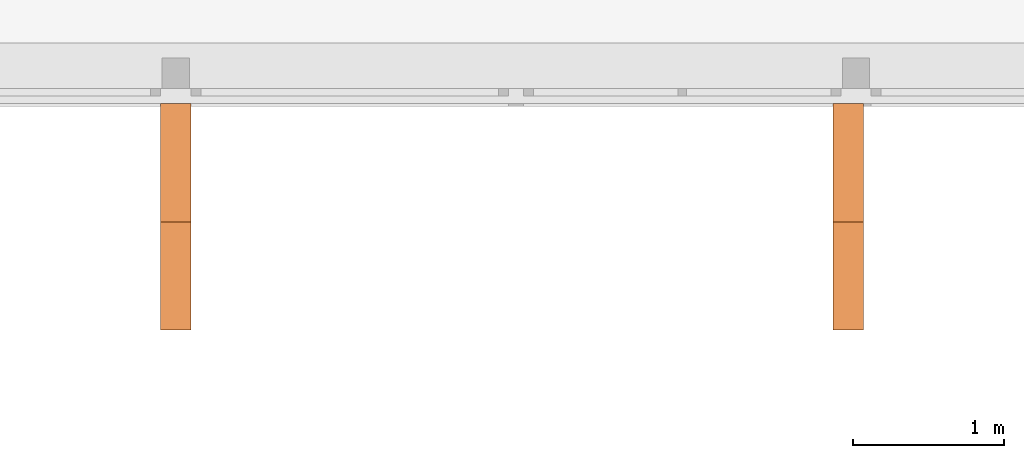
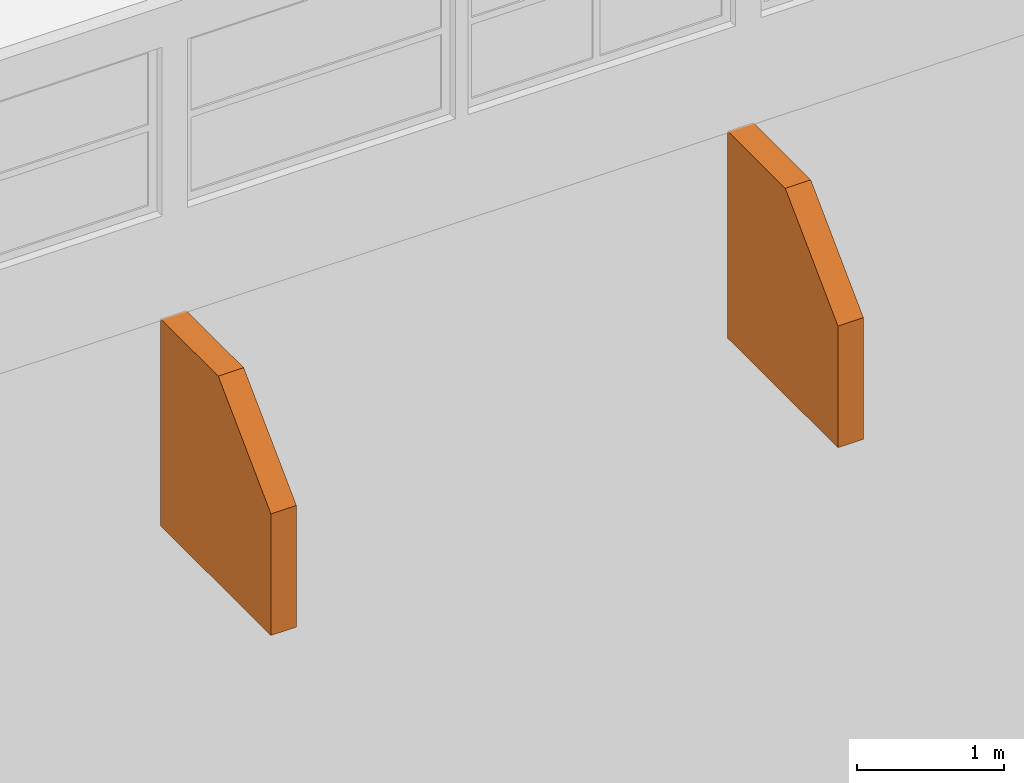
# One storey, part 48 of 48: 2 proxies.
"""IFC2X3 building model written with IfcOpenShell, lengths in millimetres."""

from ifc_helpers import new_model, entity, si_unit, converted_unit, derived_unit, money_unit, direction, frame, origin_with_axes, place, context, subcontext, project, spatial, faceted_brep, source, transform, mapped, material, type_object, element, save


model = new_model("IFC2X3")

# Units and contexts
model_context = context("Model", 3, precision=0.01, world=origin_with_axes(), true_north=direction((0.0, 1.0)))
body_context = subcontext(model_context, "Body", "Model", "MODEL_VIEW")
ifc_project = project(units=[si_unit("LENGTHUNIT", "METRE", prefix="MILLI"), si_unit("AREAUNIT", "SQUARE_METRE"), si_unit("VOLUMEUNIT", "CUBIC_METRE"), converted_unit("PLANEANGLEUNIT", "DEGREE", entity("IfcPlaneAngleMeasure", 0.0174532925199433), si_unit("PLANEANGLEUNIT", "RADIAN"), dimensions=[0, 0, 0, 0, 0, 0, 0]), money_unit("USD"), converted_unit("TIMEUNIT", "Year", entity("IfcTimeMeasure", 31557600.0), si_unit("TIMEUNIT", "SECOND"), dimensions=[0, 0, 1, 0, 0, 0, 0]), si_unit("MASSUNIT", "GRAM", prefix="KILO"), si_unit("THERMODYNAMICTEMPERATUREUNIT", "DEGREE_CELSIUS"), si_unit("LUMINOUSINTENSITYUNIT", "LUMEN"), si_unit("ENERGYUNIT", "JOULE", prefix="MEGA"), derived_unit("THERMALCONDUCTANCEUNIT", [(si_unit("POWERUNIT", "WATT"), 1), (si_unit("LENGTHUNIT", "METRE"), -1), (si_unit("THERMODYNAMICTEMPERATUREUNIT", "KELVIN"), -1)]), derived_unit("SPECIFICHEATCAPACITYUNIT", [(si_unit("ENERGYUNIT", "JOULE"), 1), (si_unit("MASSUNIT", "GRAM", prefix="KILO"), -1), (si_unit("THERMODYNAMICTEMPERATUREUNIT", "KELVIN"), -1)]), derived_unit("MASSDENSITYUNIT", [(si_unit("MASSUNIT", "GRAM", prefix="KILO"), 1), (si_unit("VOLUMEUNIT", "CUBIC_METRE"), -1)])], contexts=[model_context])

# Site, building, storey
site_placement = place(None, origin_with_axes())
site = spatial("IfcSite", under=ifc_project, at=site_placement, Name="Site", CompositionType="ELEMENT")
building_placement = place(site_placement, origin_with_axes())
building = spatial("IfcBuilding", under=site, at=building_placement, Name="Building", CompositionType="ELEMENT")
storey_placement = place(building_placement, frame((0.0, 0.0, 3300.0), z_axis=(0.0, 0.0, 1.0), x_axis=(1.0, 0.0, 0.0)))
storey = spatial("IfcBuildingStorey", under=building, at=storey_placement, Name="1 ETG", CompositionType="ELEMENT", Elevation=3300.0)

# Proxies
ifc_material = material(Name="GENERIC - PREFABRICATED")
building_element_proxy_type = type_object("IfcBuildingElementProxyType", Name="GENERIC - PREFABRICATED", PredefinedType="NOTDEFINED")
shared_shape = source(origin_with_axes(), body_context, "Body", "Brep", [
    faceted_brep([(0.0, -1500.0, -502.8886949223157), (0.0, -1500.0, 506.4373519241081), (0.0, -784.1078358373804, 1215.317008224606), (0.0, 0.0, 1215.317008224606), (0.0, 0.0, -502.8886949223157), (200.0000000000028, -1500.0, -502.8886949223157), (200.0000000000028, -1500.0, 0.0), (200.0000000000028, -1500.0, 506.4373519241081), (200.0000000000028, -784.1078358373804, 1215.317008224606), (200.0000000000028, 0.0, 1215.317008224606), (200.0000000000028, 0.0, -502.8886949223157)], [[[0, 1, 2, 3, 4]], [[1, 0, 5, 6, 7]], [[2, 1, 8]], [[3, 2, 8, 9]], [[4, 3, 9, 10]], [[4, 10, 5, 0]], [[8, 6, 5, 10, 9]], [[6, 8, 7]], [[1, 7, 8]]]),
])
for number, where, z_axis, x_axis, name in (
    (1, (-99.99843572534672, 7099.570929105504, -1215.111305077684), (0.0, 0.0, 1.0), (1.0, 0.0, 0.0), "MORPH-001"),
    (2, (4350.000212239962, 7099.570929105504, -1215.111305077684), (0.0, 0.0, 1.0), (1.0, 0.0, 0.0), "MORPH-001"),
):
    element("IfcBuildingElementProxy", number, at=place(storey_placement, frame(where, z_axis=z_axis, x_axis=x_axis)), inside=storey, type_object=building_element_proxy_type, material=ifc_material, Name=name, context=body_context, shape_type="MappedRepresentation", body=[
        mapped(shared_shape, transform((0.0, 0.0, 0.0))),
    ])

save(model, "model.ifc")
